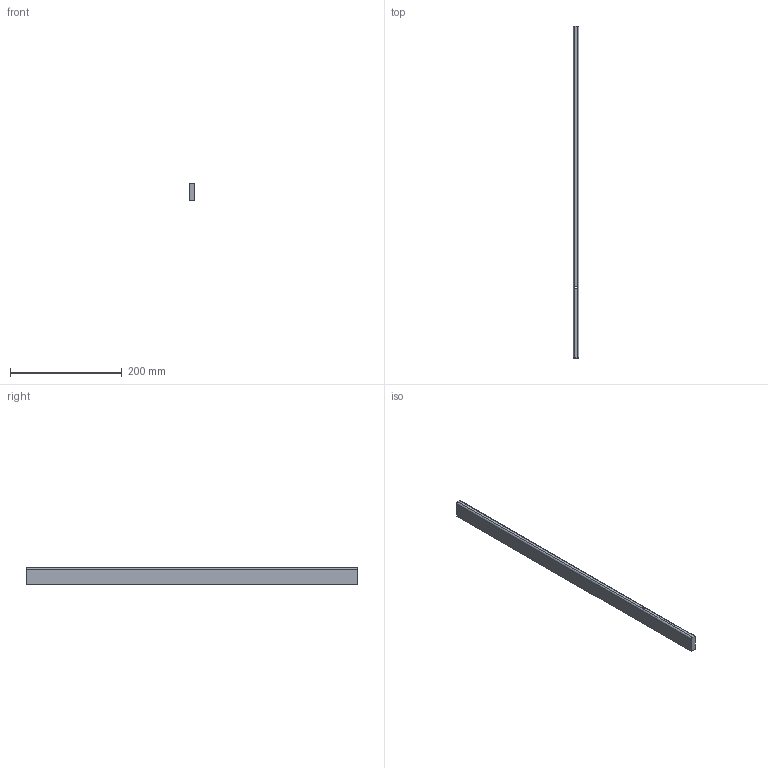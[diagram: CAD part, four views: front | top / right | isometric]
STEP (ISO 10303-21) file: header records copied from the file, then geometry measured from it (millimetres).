
FILE_DESCRIPTION (( 'STEP AP214' ), '1' );
FILE_NAME ('_Seitenreling_SP60702400_RL595.step', '2010-09-06T14:52:12', ( 'grass' ), ( '' ), 'SwSTEP 2.0', 'SolidWorks 2010', '' );
FILE_SCHEMA (( 'AUTOMOTIVE_DESIGN' ));
Length unit declared in the file: millimetre
Products named in the file (1): _Seitenreling_SP60702400_RL595
Bounding box: 10.5 x 595 x 30 mm (x, y, z)
Volume: 184207.6 mm3; surface area: 47823.4 mm2
Topology: 1 solids, 1 shells, 14 faces, 34 edges, 22 vertices
Faces by surface type: plane 8, cylinder 6
Entity records: 454 total; most frequent: DIRECTION 78, CARTESIAN_POINT 71, ORIENTED_EDGE 68, EDGE_CURVE 34, AXIS2_PLACEMENT_3D 29, VERTEX_POINT 22, LINE 20, VECTOR 20
